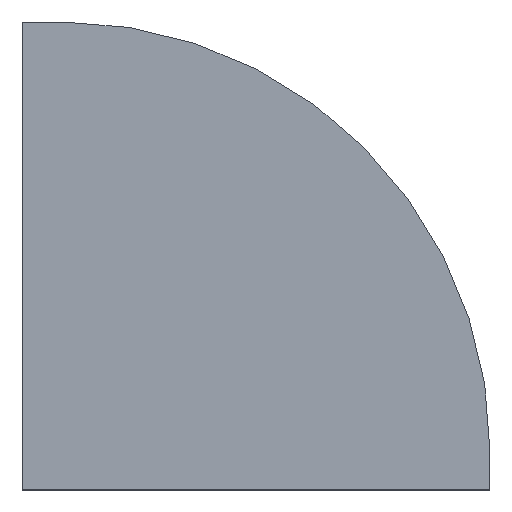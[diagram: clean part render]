
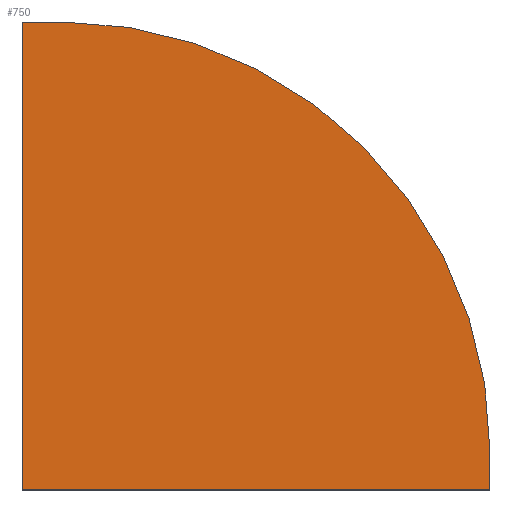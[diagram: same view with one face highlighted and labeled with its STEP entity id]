
A CAD part, top view. The second image highlights one B-rep face of the part: STEP entity #750.
In plain terms, the highlighted planar face has unit normal (0, 0, 1).
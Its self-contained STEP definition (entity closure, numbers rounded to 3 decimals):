
#26 = DIRECTION ( 'NONE',  ( 0., 0., 1. ) ) ;
#31 = CARTESIAN_POINT ( 'NONE',  ( 33.148, 16., 1.9 ) ) ;
#42 = AXIS2_PLACEMENT_3D ( 'NONE', #365, #26, #360 ) ;
#49 = DIRECTION ( 'NONE',  ( 1., 0., 0. ) ) ;
#57 = ORIENTED_EDGE ( 'NONE', *, *, #528, .T. ) ;
#67 = LINE ( 'NONE', #883, #181 ) ;
#93 = EDGE_CURVE ( 'NONE', #432, #843, #119, .T. ) ;
#119 = CIRCLE ( 'NONE', #724, 14.669 ) ;
#146 = DIRECTION ( 'NONE',  ( 0., -1., 0. ) ) ;
#159 = ORIENTED_EDGE ( 'NONE', *, *, #93, .T. ) ;
#181 = VECTOR ( 'NONE', #961, 1000. ) ;
#183 = CARTESIAN_POINT ( 'NONE',  ( 49.148, 0., 1.9 ) ) ;
#189 = VECTOR ( 'NONE', #329, 1000. ) ;
#208 = EDGE_CURVE ( 'NONE', #627, #432, #813, .T. ) ;
#259 = LINE ( 'NONE', #910, #189 ) ;
#307 = CARTESIAN_POINT ( 'NONE',  ( 49.148, 0., 1.9 ) ) ;
#329 = DIRECTION ( 'NONE',  ( -1., 0., 0. ) ) ;
#360 = DIRECTION ( 'NONE',  ( 1., 0., 0. ) ) ;
#365 = CARTESIAN_POINT ( 'NONE',  ( 34.48, 1.332, 1.9 ) ) ;
#409 = ORIENTED_EDGE ( 'NONE', *, *, #208, .T. ) ;
#432 = VERTEX_POINT ( 'NONE', #768 ) ;
#440 = ORIENTED_EDGE ( 'NONE', *, *, #751, .T. ) ;
#480 = VECTOR ( 'NONE', #729, 1000. ) ;
#528 = EDGE_CURVE ( 'NONE', #843, #663, #259, .T. ) ;
#530 = VERTEX_POINT ( 'NONE', #996 ) ;
#565 = VECTOR ( 'NONE', #146, 1000. ) ;
#608 = LINE ( 'NONE', #31, #565 ) ;
#627 = VERTEX_POINT ( 'NONE', #183 ) ;
#658 = EDGE_LOOP ( 'NONE', ( #159, #57, #440, #725, #409 ) ) ;
#663 = VERTEX_POINT ( 'NONE', #1030 ) ;
#686 = PLANE ( 'NONE',  #42 ) ;
#691 = CARTESIAN_POINT ( 'NONE',  ( 34.48, 1.332, 1.9 ) ) ;
#712 = CARTESIAN_POINT ( 'NONE',  ( 34.528, 16., 1.9 ) ) ;
#724 = AXIS2_PLACEMENT_3D ( 'NONE', #691, #787, #49 ) ;
#725 = ORIENTED_EDGE ( 'NONE', *, *, #785, .T. ) ;
#729 = DIRECTION ( 'NONE',  ( 0., 1., 0. ) ) ;
#750 = ADVANCED_FACE ( 'NONE', ( #761 ), #686, .T. ) ;
#751 = EDGE_CURVE ( 'NONE', #663, #530, #608, .T. ) ;
#761 = FACE_OUTER_BOUND ( 'NONE', #658, .T. ) ;
#768 = CARTESIAN_POINT ( 'NONE',  ( 49.148, 1.338, 1.9 ) ) ;
#785 = EDGE_CURVE ( 'NONE', #530, #627, #67, .T. ) ;
#787 = DIRECTION ( 'NONE',  ( 0., 0., 1. ) ) ;
#813 = LINE ( 'NONE', #307, #480 ) ;
#843 = VERTEX_POINT ( 'NONE', #712 ) ;
#883 = CARTESIAN_POINT ( 'NONE',  ( 33.148, 0., 1.9 ) ) ;
#910 = CARTESIAN_POINT ( 'NONE',  ( 34.528, 16., 1.9 ) ) ;
#961 = DIRECTION ( 'NONE',  ( 1., 0., 0. ) ) ;
#996 = CARTESIAN_POINT ( 'NONE',  ( 33.148, 0., 1.9 ) ) ;
#1030 = CARTESIAN_POINT ( 'NONE',  ( 33.148, 16., 1.9 ) ) ;
